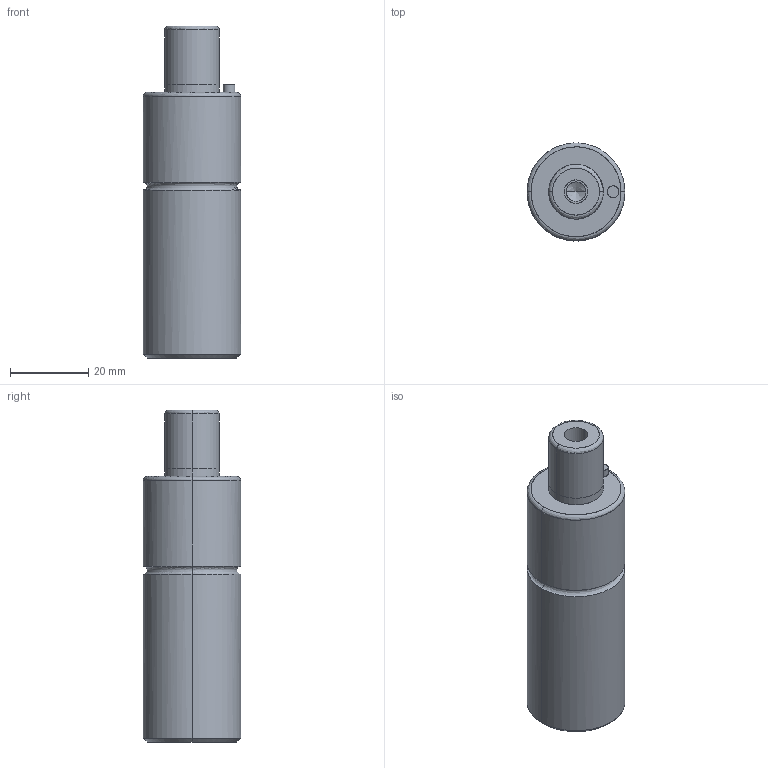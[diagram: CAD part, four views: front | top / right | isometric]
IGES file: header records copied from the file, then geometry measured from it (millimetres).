
Global section: file name: E:\UnigraphicsGraphicData\MISUMI_PRESS-PARTS\IGES\3d_gsm25-15_03925_r00.igs; native system: NX V5.0; preprocessor: UGS NX IGES V5.0; author: MISUMI; date: 20110105.160806; units: millimetre
Bounding box: 25 x 24.98 x 85 mm (x, y, z)
Surface area: 7432.5 mm2 (no closed solid volume)
Topology: 0 solids, 0 shells, 36 faces, 216 edges, 212 vertices
Faces by surface type: bspline 36
